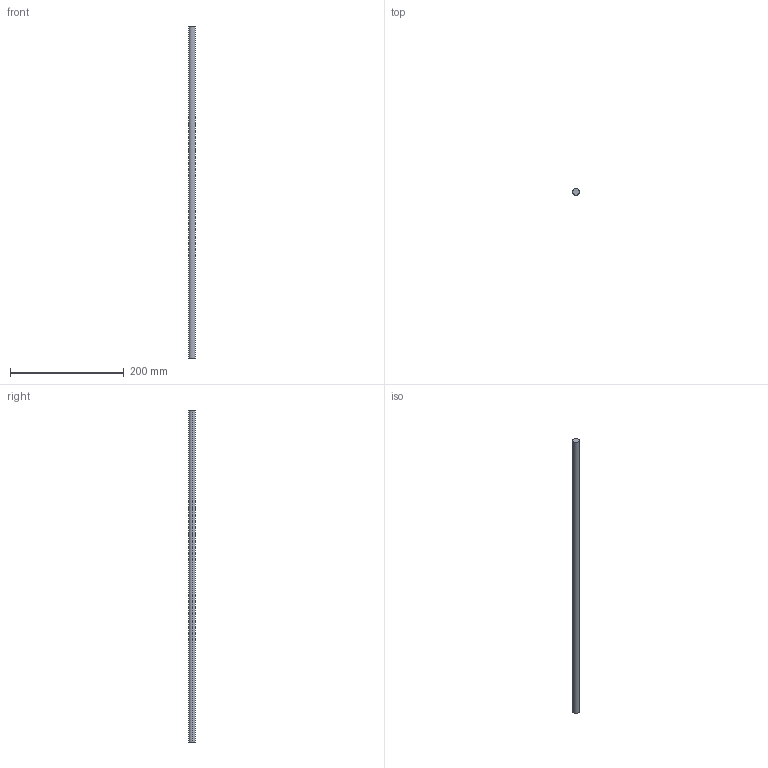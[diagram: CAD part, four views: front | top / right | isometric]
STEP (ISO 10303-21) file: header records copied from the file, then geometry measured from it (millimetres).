
FILE_DESCRIPTION (( 'STEP AP214' ), '1' );
FILE_NAME ('Innenschub H182 - S18_S19 - 700.step', '2010-09-07T14:56:03', ( 'grass' ), ( '' ), 'SwSTEP 2.0', 'SolidWorks 2010', '' );
FILE_SCHEMA (( 'AUTOMOTIVE_DESIGN' ));
Length unit declared in the file: millimetre
Products named in the file (1): Innenschub H182 - S18_S19 - 700
Bounding box: 12 x 12 x 583 mm (x, y, z)
Volume: 65935.7 mm3; surface area: 22204.8 mm2
Topology: 1 solids, 1 shells, 4 faces, 6 edges, 4 vertices
Faces by surface type: cylinder 2, plane 2
Entity records: 128 total; most frequent: DIRECTION 20, CARTESIAN_POINT 15, ORIENTED_EDGE 12, AXIS2_PLACEMENT_3D 9, EDGE_CURVE 6, ADVANCED_FACE 4, VERTEX_POINT 4, EDGE_LOOP 4
